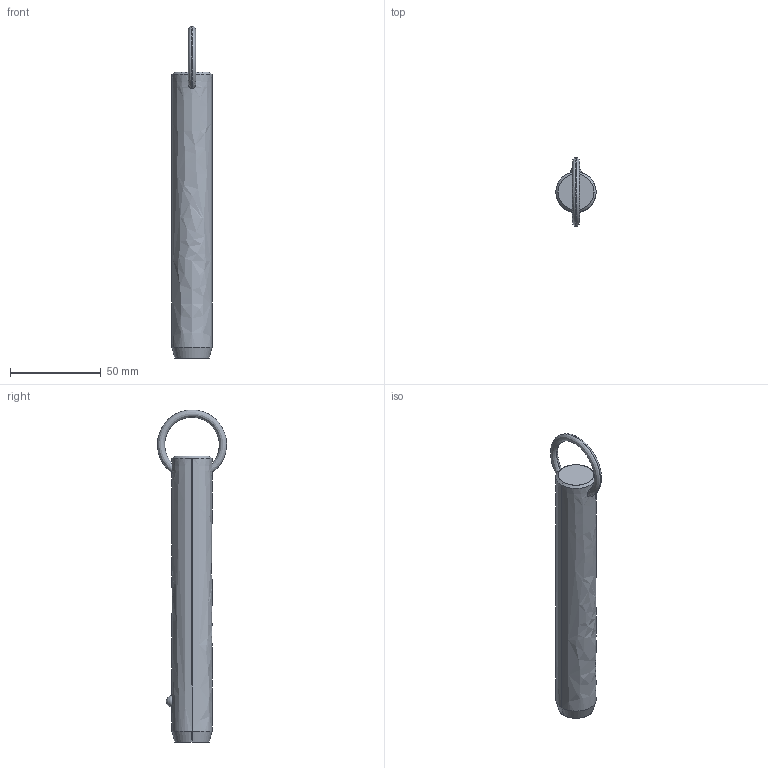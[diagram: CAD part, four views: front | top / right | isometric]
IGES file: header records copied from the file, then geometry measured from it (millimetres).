
Start section: SolidWorks IGES file using analytic representation for surfaces
Global section: file name: C:\Users\liam_\OneDrive\Documents\WORK\Work for WixRoyd\Job Files\J-00019 - Matt Davis CAD Checking\04. CAD Drawings\automotion20190605\P1250.2_v2\P1250.2_v2_20190729_IGES\P1250.087-470.igs; native system: SolidWorks 2017; preprocessor: SolidWorks 2017; author: liam_; date: 190730.001253; units: millimetre
Bounding box: 22.2 x 38.07 x 182.89 mm (x, y, z)
Surface area: 12628.3 mm2 (no closed solid volume)
Topology: 0 solids, 0 shells, 12 faces, 302 edges, 300 vertices
Faces by surface type: revolution 8, bspline 4
